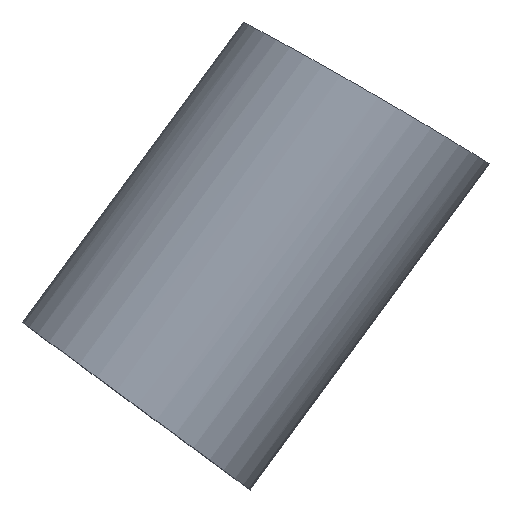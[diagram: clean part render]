
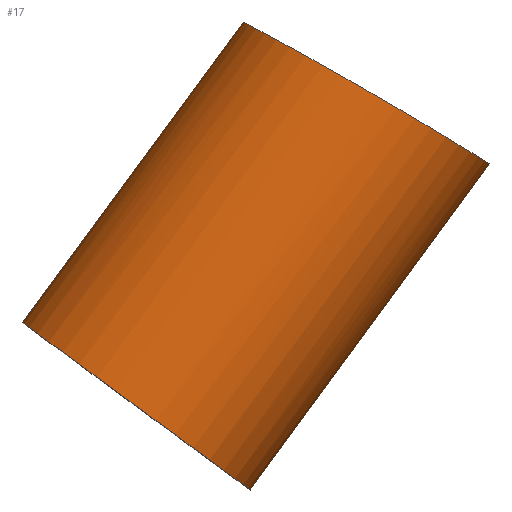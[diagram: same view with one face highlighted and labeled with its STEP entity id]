
A CAD part, top view. The second image highlights one B-rep face of the part: STEP entity #17.
In plain terms, the highlighted cylindrical face has radius 0.4 mm (diameter 0.8 mm), a full revolution.
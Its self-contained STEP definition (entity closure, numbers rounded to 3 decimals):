
#17 = ADVANCED_FACE('',(#18),#85,.T.);
#18 = FACE_BOUND('',#19,.T.);
#19 = EDGE_LOOP('',(#20,#36,#44,#51,#52));
#20 = ORIENTED_EDGE('',*,*,#21,.T.);
#21 = EDGE_CURVE('',#22,#24,#26,.T.);
#22 = VERTEX_POINT('',#23);
#23 = CARTESIAN_POINT('',(6.762,11.741,-2.1)
  );
#24 = VERTEX_POINT('',#25);
#25 = CARTESIAN_POINT('',(7.109,11.535,-1.7));
#26 = B_SPLINE_CURVE_WITH_KNOTS('',8,(#27,#28,#29,#30,#31,#32,#33,#34,
    #35),.UNSPECIFIED.,.F.,.F.,(9,9),(0.,1.),.PIECEWISE_BEZIER_KNOTS.);
#27 = CARTESIAN_POINT('',(6.762,11.741,-2.1)
  );
#28 = CARTESIAN_POINT('',(6.833,11.7,-2.1
    ));
#29 = CARTESIAN_POINT('',(6.903,11.659,-2.082)
  );
#30 = CARTESIAN_POINT('',(6.968,11.62,-2.044
    ));
#31 = CARTESIAN_POINT('',(7.023,11.587,-1.991)
  );
#32 = CARTESIAN_POINT('',(7.066,11.561,-1.925
    ));
#33 = CARTESIAN_POINT('',(7.094,11.544,-1.853
    ));
#34 = CARTESIAN_POINT('',(7.109,11.535,-1.776)
  );
#35 = CARTESIAN_POINT('',(7.109,11.535,-1.7));
#36 = ORIENTED_EDGE('',*,*,#37,.F.);
#37 = EDGE_CURVE('',#38,#24,#40,.T.);
#38 = VERTEX_POINT('',#39);
#39 = CARTESIAN_POINT('',(6.431,10.612,-1.7));
#40 = LINE('',#41,#42);
#41 = CARTESIAN_POINT('',(6.431,10.612,-1.7));
#42 = VECTOR('',#43,1.);
#43 = DIRECTION('',(0.592,0.806,0.));
#44 = ORIENTED_EDGE('',*,*,#45,.T.);
#45 = EDGE_CURVE('',#38,#38,#46,.T.);
#46 = CIRCLE('',#47,0.4);
#47 = AXIS2_PLACEMENT_3D('',#48,#49,#50);
#48 = CARTESIAN_POINT('',(6.108,10.849,-1.7));
#49 = DIRECTION('',(0.592,0.806,0.));
#50 = DIRECTION('',(0.806,-0.592,0.));
#51 = ORIENTED_EDGE('',*,*,#37,.T.);
#52 = ORIENTED_EDGE('',*,*,#53,.T.);
#53 = EDGE_CURVE('',#24,#22,#54,.T.);
#54 = B_SPLINE_CURVE_WITH_KNOTS('',8,(#55,#56,#57,#58,#59,#60,#61,#62,
    #63,#64,#65,#66,#67,#68,#69,#70,#71,#72,#73,#74,#75,#76,#77,#78,#79,
    #80,#81,#82,#83,#84),.UNSPECIFIED.,.F.,.F.,(9,7,7,7,9),(0.,
    0.174,0.44,0.667,1.),.UNSPECIFIED.);
#55 = CARTESIAN_POINT('',(7.109,11.535,-1.7));
#56 = CARTESIAN_POINT('',(7.109,11.535,-1.66
    ));
#57 = CARTESIAN_POINT('',(7.105,11.538,-1.621)
  );
#58 = CARTESIAN_POINT('',(7.097,11.542,-1.581
    ));
#59 = CARTESIAN_POINT('',(7.086,11.55,-1.543
    ));
#60 = CARTESIAN_POINT('',(7.07,11.559,-1.507)
  );
#61 = CARTESIAN_POINT('',(7.051,11.571,-1.472
    ));
#62 = CARTESIAN_POINT('',(7.029,11.584,-1.44
    ));
#63 = CARTESIAN_POINT('',(6.965,11.623,-1.369
    ));
#64 = CARTESIAN_POINT('',(6.919,11.651,-1.332
    ));
#65 = CARTESIAN_POINT('',(6.867,11.682,-1.306
    ));
#66 = CARTESIAN_POINT('',(6.81,11.715,-1.291)
  );
#67 = CARTESIAN_POINT('',(6.752,11.748,-1.289)
  );
#68 = CARTESIAN_POINT('',(6.694,11.781,-1.299
    ));
#69 = CARTESIAN_POINT('',(6.64,11.812,-1.321
    ));
#70 = CARTESIAN_POINT('',(6.549,11.862,-1.378
    ));
#71 = CARTESIAN_POINT('',(6.512,11.883,-1.412
    ));
#72 = CARTESIAN_POINT('',(6.479,11.901,-1.452
    ));
#73 = CARTESIAN_POINT('',(6.452,11.915,-1.497
    ));
#74 = CARTESIAN_POINT('',(6.432,11.926,-1.545
    ));
#75 = CARTESIAN_POINT('',(6.418,11.933,-1.596
    ));
#76 = CARTESIAN_POINT('',(6.411,11.937,-1.648)
  );
#77 = CARTESIAN_POINT('',(6.411,11.937,-1.775
    ));
#78 = CARTESIAN_POINT('',(6.425,11.929,-1.851
    ));
#79 = CARTESIAN_POINT('',(6.455,11.913,-1.924)
  );
#80 = CARTESIAN_POINT('',(6.498,11.89,-1.989
    ));
#81 = CARTESIAN_POINT('',(6.554,11.859,-2.043
    ));
#82 = CARTESIAN_POINT('',(6.62,11.822,-2.081
    ));
#83 = CARTESIAN_POINT('',(6.691,11.782,-2.1
    ));
#84 = CARTESIAN_POINT('',(6.762,11.741,-2.1)
  );
#85 = CYLINDRICAL_SURFACE('',#86,0.4);
#86 = AXIS2_PLACEMENT_3D('',#87,#88,#89);
#87 = CARTESIAN_POINT('',(6.108,10.849,-1.7));
#88 = DIRECTION('',(0.592,0.806,0.));
#89 = DIRECTION('',(0.806,-0.592,0.));
